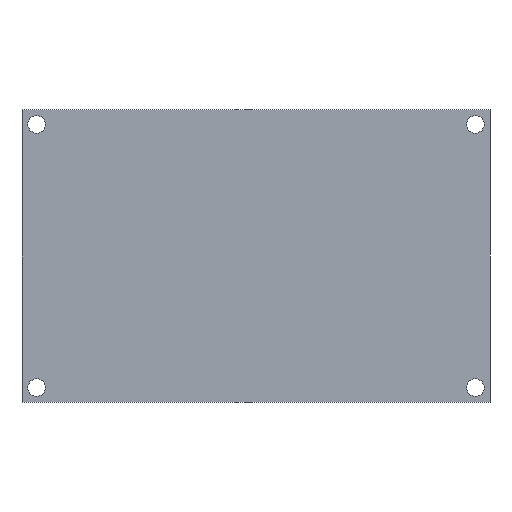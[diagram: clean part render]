
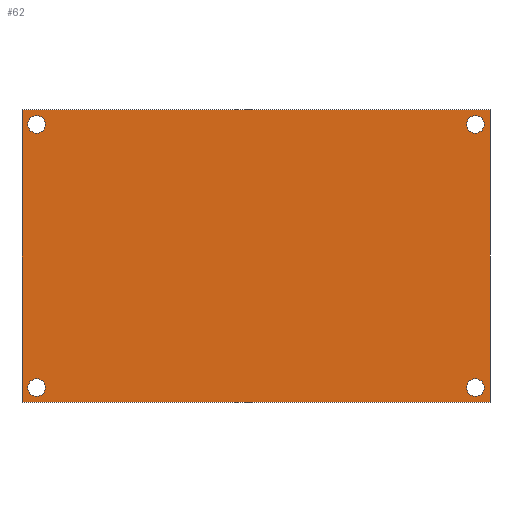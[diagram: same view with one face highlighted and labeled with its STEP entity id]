
A CAD part, front view. The second image highlights one B-rep face of the part: STEP entity #62.
In plain terms, the highlighted planar face has unit normal (0, -1, 0).
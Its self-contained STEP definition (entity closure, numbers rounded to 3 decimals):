
#1 = LINE ( 'NONE', #99, #258 ) ;
#6 = ORIENTED_EDGE ( 'NONE', *, *, #488, .T. ) ;
#16 = VERTEX_POINT ( 'NONE', #322 ) ;
#17 = EDGE_CURVE ( 'NONE', #253, #16, #31, .T. ) ;
#19 = DIRECTION ( 'NONE',  ( 0., 1., 0. ) ) ;
#21 = CIRCLE ( 'NONE', #368, 1.5 ) ;
#24 = DIRECTION ( 'NONE',  ( 0., 1., 0. ) ) ;
#31 = LINE ( 'NONE', #284, #407 ) ;
#35 = EDGE_CURVE ( 'NONE', #487, #500, #273, .T. ) ;
#37 = DIRECTION ( 'NONE',  ( 0., 0., -1. ) ) ;
#39 = FACE_BOUND ( 'NONE', #400, .T. ) ;
#42 = VERTEX_POINT ( 'NONE', #456 ) ;
#52 = DIRECTION ( 'NONE',  ( 1., 0., 0. ) ) ;
#54 = EDGE_CURVE ( 'NONE', #430, #590, #287, .T. ) ;
#62 = ADVANCED_FACE ( 'NONE', ( #513, #466, #39, #279, #404 ), #608, .T. ) ;
#73 = EDGE_LOOP ( 'NONE', ( #249, #354 ) ) ;
#86 = CARTESIAN_POINT ( 'NONE',  ( -37.5, 0., -22.5 ) ) ;
#99 = CARTESIAN_POINT ( 'NONE',  ( -40., 0., 25. ) ) ;
#103 = ORIENTED_EDGE ( 'NONE', *, *, #265, .T. ) ;
#107 = DIRECTION ( 'NONE',  ( 0., 0., 1. ) ) ;
#115 = AXIS2_PLACEMENT_3D ( 'NONE', #336, #238, #614 ) ;
#137 = CARTESIAN_POINT ( 'NONE',  ( 37.5, 0., -22.5 ) ) ;
#139 = EDGE_CURVE ( 'NONE', #16, #487, #1, .T. ) ;
#192 = VECTOR ( 'NONE', #612, 1000. ) ;
#202 = DIRECTION ( 'NONE',  ( 0., 0., -1. ) ) ;
#203 = ORIENTED_EDGE ( 'NONE', *, *, #303, .T. ) ;
#209 = DIRECTION ( 'NONE',  ( 0., 0., 1. ) ) ;
#219 = CARTESIAN_POINT ( 'NONE',  ( -37.5, 0., -21. ) ) ;
#222 = AXIS2_PLACEMENT_3D ( 'NONE', #348, #19, #107 ) ;
#226 = EDGE_CURVE ( 'NONE', #500, #253, #383, .T. ) ;
#238 = DIRECTION ( 'NONE',  ( 0., 1., 0. ) ) ;
#245 = CIRCLE ( 'NONE', #465, 1.5 ) ;
#249 = ORIENTED_EDGE ( 'NONE', *, *, #555, .T. ) ;
#253 = VERTEX_POINT ( 'NONE', #380 ) ;
#258 = VECTOR ( 'NONE', #52, 1000. ) ;
#262 = CARTESIAN_POINT ( 'NONE',  ( 37.5, 0., 22.5 ) ) ;
#265 = EDGE_CURVE ( 'NONE', #423, #42, #377, .T. ) ;
#273 = LINE ( 'NONE', #369, #519 ) ;
#279 = FACE_BOUND ( 'NONE', #73, .T. ) ;
#283 = DIRECTION ( 'NONE',  ( 0., 1., 0. ) ) ;
#284 = CARTESIAN_POINT ( 'NONE',  ( -40., 0., 25. ) ) ;
#287 = CIRCLE ( 'NONE', #363, 1.5 ) ;
#290 = VERTEX_POINT ( 'NONE', #489 ) ;
#295 = CARTESIAN_POINT ( 'NONE',  ( -37.5, 0., -24. ) ) ;
#296 = DIRECTION ( 'NONE',  ( 0., 1., 0. ) ) ;
#303 = EDGE_CURVE ( 'NONE', #590, #430, #351, .T. ) ;
#304 = CARTESIAN_POINT ( 'NONE',  ( -37.5, 0., 24. ) ) ;
#317 = CARTESIAN_POINT ( 'NONE',  ( -37.5, 0., 22.5 ) ) ;
#322 = CARTESIAN_POINT ( 'NONE',  ( -40., 0., 25. ) ) ;
#327 = DIRECTION ( 'NONE',  ( 0., 0., 1. ) ) ;
#329 = CARTESIAN_POINT ( 'NONE',  ( -40., 0., -25. ) ) ;
#336 = CARTESIAN_POINT ( 'NONE',  ( -37.5, 0., 22.5 ) ) ;
#339 = CARTESIAN_POINT ( 'NONE',  ( 37.5, 0., -21. ) ) ;
#346 = VERTEX_POINT ( 'NONE', #304 ) ;
#347 = ORIENTED_EDGE ( 'NONE', *, *, #139, .F. ) ;
#348 = CARTESIAN_POINT ( 'NONE',  ( 37.5, 0., -22.5 ) ) ;
#351 = CIRCLE ( 'NONE', #566, 1.5 ) ;
#354 = ORIENTED_EDGE ( 'NONE', *, *, #411, .T. ) ;
#355 = CARTESIAN_POINT ( 'NONE',  ( -37.5, 0., -22.5 ) ) ;
#358 = ORIENTED_EDGE ( 'NONE', *, *, #414, .T. ) ;
#360 = DIRECTION ( 'NONE',  ( 0., 0., -1. ) ) ;
#363 = AXIS2_PLACEMENT_3D ( 'NONE', #86, #559, #602 ) ;
#368 = AXIS2_PLACEMENT_3D ( 'NONE', #317, #24, #360 ) ;
#369 = CARTESIAN_POINT ( 'NONE',  ( 40., 0., 25. ) ) ;
#373 = DIRECTION ( 'NONE',  ( 0., 0., 1. ) ) ;
#377 = CIRCLE ( 'NONE', #448, 1.5 ) ;
#380 = CARTESIAN_POINT ( 'NONE',  ( -40., 0., -25. ) ) ;
#381 = EDGE_LOOP ( 'NONE', ( #434, #203 ) ) ;
#383 = LINE ( 'NONE', #329, #192 ) ;
#390 = ORIENTED_EDGE ( 'NONE', *, *, #605, .T. ) ;
#394 = ORIENTED_EDGE ( 'NONE', *, *, #17, .F. ) ;
#400 = EDGE_LOOP ( 'NONE', ( #358, #103 ) ) ;
#404 = FACE_OUTER_BOUND ( 'NONE', #432, .T. ) ;
#407 = VECTOR ( 'NONE', #327, 1000. ) ;
#408 = DIRECTION ( 'NONE',  ( 0., -1., 0. ) ) ;
#411 = EDGE_CURVE ( 'NONE', #290, #541, #435, .T. ) ;
#414 = EDGE_CURVE ( 'NONE', #42, #423, #245, .T. ) ;
#423 = VERTEX_POINT ( 'NONE', #462 ) ;
#430 = VERTEX_POINT ( 'NONE', #219 ) ;
#432 = EDGE_LOOP ( 'NONE', ( #394, #595, #583, #347 ) ) ;
#434 = ORIENTED_EDGE ( 'NONE', *, *, #54, .T. ) ;
#435 = CIRCLE ( 'NONE', #222, 1.5 ) ;
#437 = AXIS2_PLACEMENT_3D ( 'NONE', #552, #408, #604 ) ;
#448 = AXIS2_PLACEMENT_3D ( 'NONE', #526, #296, #476 ) ;
#453 = VERTEX_POINT ( 'NONE', #596 ) ;
#454 = CIRCLE ( 'NONE', #115, 1.5 ) ;
#455 = CARTESIAN_POINT ( 'NONE',  ( 40., 0., 25. ) ) ;
#456 = CARTESIAN_POINT ( 'NONE',  ( 37.5, 0., 24. ) ) ;
#462 = CARTESIAN_POINT ( 'NONE',  ( 37.5, 0., 21. ) ) ;
#465 = AXIS2_PLACEMENT_3D ( 'NONE', #262, #492, #209 ) ;
#466 = FACE_BOUND ( 'NONE', #562, .T. ) ;
#476 = DIRECTION ( 'NONE',  ( 0., 0., 1. ) ) ;
#487 = VERTEX_POINT ( 'NONE', #455 ) ;
#488 = EDGE_CURVE ( 'NONE', #346, #453, #21, .T. ) ;
#489 = CARTESIAN_POINT ( 'NONE',  ( 37.5, 0., -24. ) ) ;
#492 = DIRECTION ( 'NONE',  ( 0., 1., 0. ) ) ;
#493 = AXIS2_PLACEMENT_3D ( 'NONE', #137, #283, #373 ) ;
#500 = VERTEX_POINT ( 'NONE', #551 ) ;
#513 = FACE_BOUND ( 'NONE', #381, .T. ) ;
#519 = VECTOR ( 'NONE', #37, 1000. ) ;
#525 = CIRCLE ( 'NONE', #493, 1.5 ) ;
#526 = CARTESIAN_POINT ( 'NONE',  ( 37.5, 0., 22.5 ) ) ;
#541 = VERTEX_POINT ( 'NONE', #339 ) ;
#551 = CARTESIAN_POINT ( 'NONE',  ( 40., 0., -25. ) ) ;
#552 = CARTESIAN_POINT ( 'NONE',  ( 0., 0., 0. ) ) ;
#555 = EDGE_CURVE ( 'NONE', #541, #290, #525, .T. ) ;
#559 = DIRECTION ( 'NONE',  ( 0., 1., 0. ) ) ;
#562 = EDGE_LOOP ( 'NONE', ( #6, #390 ) ) ;
#566 = AXIS2_PLACEMENT_3D ( 'NONE', #355, #592, #202 ) ;
#583 = ORIENTED_EDGE ( 'NONE', *, *, #35, .F. ) ;
#590 = VERTEX_POINT ( 'NONE', #295 ) ;
#592 = DIRECTION ( 'NONE',  ( 0., 1., 0. ) ) ;
#595 = ORIENTED_EDGE ( 'NONE', *, *, #226, .F. ) ;
#596 = CARTESIAN_POINT ( 'NONE',  ( -37.5, 0., 21. ) ) ;
#602 = DIRECTION ( 'NONE',  ( 0., 0., -1. ) ) ;
#604 = DIRECTION ( 'NONE',  ( 0., 0., -1. ) ) ;
#605 = EDGE_CURVE ( 'NONE', #453, #346, #454, .T. ) ;
#608 = PLANE ( 'NONE',  #437 ) ;
#612 = DIRECTION ( 'NONE',  ( -1., 0., 0. ) ) ;
#614 = DIRECTION ( 'NONE',  ( 0., 0., -1. ) ) ;
